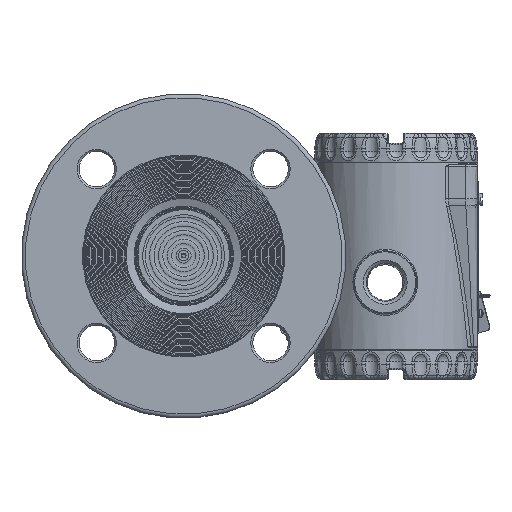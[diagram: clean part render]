
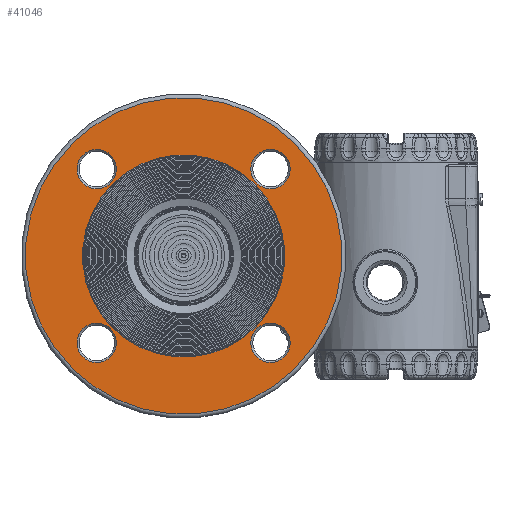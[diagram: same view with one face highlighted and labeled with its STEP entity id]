
A CAD part, top view. The second image highlights one B-rep face of the part: STEP entity #41046.
In plain terms, the highlighted planar face has unit normal (0, 0, 1).
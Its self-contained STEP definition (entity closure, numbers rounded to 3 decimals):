
#686=FACE_BOUND('',#6812,.T.);
#687=FACE_BOUND('',#6813,.T.);
#688=FACE_BOUND('',#6814,.T.);
#689=FACE_BOUND('',#6815,.T.);
#690=FACE_BOUND('',#6816,.T.);
#2670=PLANE('',#45621);
#4064=FACE_OUTER_BOUND('',#6811,.T.);
#6811=EDGE_LOOP('',(#31290));
#6812=EDGE_LOOP('',(#31291,#31292));
#6813=EDGE_LOOP('',(#31293));
#6814=EDGE_LOOP('',(#31294));
#6815=EDGE_LOOP('',(#31295));
#6816=EDGE_LOOP('',(#31296));
#13537=CIRCLE('',#45618,80.5);
#13539=CIRCLE('',#45622,51.4);
#13540=CIRCLE('',#45623,51.4);
#13541=CIRCLE('',#45624,10.);
#13542=CIRCLE('',#45625,10.);
#13543=CIRCLE('',#45626,10.);
#13544=CIRCLE('',#45627,10.);
#18014=VERTEX_POINT('',#72579);
#18016=VERTEX_POINT('',#72587);
#18017=VERTEX_POINT('',#72588);
#18018=VERTEX_POINT('',#72591);
#18019=VERTEX_POINT('',#72593);
#18020=VERTEX_POINT('',#72595);
#18021=VERTEX_POINT('',#72597);
#22735=EDGE_CURVE('',#18014,#18014,#13537,.T.);
#22738=EDGE_CURVE('',#18016,#18017,#13539,.T.);
#22739=EDGE_CURVE('',#18017,#18016,#13540,.T.);
#22740=EDGE_CURVE('',#18018,#18018,#13541,.T.);
#22741=EDGE_CURVE('',#18019,#18019,#13542,.T.);
#22742=EDGE_CURVE('',#18020,#18020,#13543,.T.);
#22743=EDGE_CURVE('',#18021,#18021,#13544,.T.);
#31290=ORIENTED_EDGE('',*,*,#22735,.F.);
#31291=ORIENTED_EDGE('',*,*,#22738,.F.);
#31292=ORIENTED_EDGE('',*,*,#22739,.F.);
#31293=ORIENTED_EDGE('',*,*,#22740,.F.);
#31294=ORIENTED_EDGE('',*,*,#22741,.F.);
#31295=ORIENTED_EDGE('',*,*,#22742,.F.);
#31296=ORIENTED_EDGE('',*,*,#22743,.F.);
#41046=ADVANCED_FACE('',(#4064,#686,#687,#688,#689,#690),#2670,.T.);
#45618=AXIS2_PLACEMENT_3D('',#72581,#53739,#53740);
#45621=AXIS2_PLACEMENT_3D('',#72586,#53746,#53747);
#45622=AXIS2_PLACEMENT_3D('',#72589,#53748,#53749);
#45623=AXIS2_PLACEMENT_3D('',#72590,#53750,#53751);
#45624=AXIS2_PLACEMENT_3D('',#72592,#53752,#53753);
#45625=AXIS2_PLACEMENT_3D('',#72594,#53754,#53755);
#45626=AXIS2_PLACEMENT_3D('',#72596,#53756,#53757);
#45627=AXIS2_PLACEMENT_3D('',#72598,#53758,#53759);
#53739=DIRECTION('center_axis',(0.,0.,-1.));
#53740=DIRECTION('ref_axis',(-1.,0.,0.));
#53746=DIRECTION('center_axis',(0.,0.,1.));
#53747=DIRECTION('ref_axis',(1.,0.,0.));
#53748=DIRECTION('center_axis',(0.,0.,1.));
#53749=DIRECTION('ref_axis',(-1.,0.,0.));
#53750=DIRECTION('center_axis',(0.,0.,1.));
#53751=DIRECTION('ref_axis',(-1.,0.,0.));
#53752=DIRECTION('center_axis',(0.,0.,1.));
#53753=DIRECTION('ref_axis',(-1.,0.,0.));
#53754=DIRECTION('center_axis',(0.,0.,1.));
#53755=DIRECTION('ref_axis',(0.,1.,0.));
#53756=DIRECTION('center_axis',(0.,0.,1.));
#53757=DIRECTION('ref_axis',(1.,0.,0.));
#53758=DIRECTION('center_axis',(0.,0.,1.));
#53759=DIRECTION('ref_axis',(0.,-1.,0.));
#72579=CARTESIAN_POINT('',(80.5,0.,17.));
#72581=CARTESIAN_POINT('Origin',(0.,0.,17.));
#72586=CARTESIAN_POINT('Origin',(0.,0.,
17.));
#72587=CARTESIAN_POINT('',(51.4,0.,17.));
#72588=CARTESIAN_POINT('',(-51.4,0.,17.));
#72589=CARTESIAN_POINT('Origin',(0.,0.,17.));
#72590=CARTESIAN_POINT('Origin',(0.,0.,17.));
#72591=CARTESIAN_POINT('',(10.,62.5,17.));
#72592=CARTESIAN_POINT('Origin',(0.,62.5,17.));
#72593=CARTESIAN_POINT('',(62.5,-10.,17.));
#72594=CARTESIAN_POINT('Origin',(62.5,0.,17.));
#72595=CARTESIAN_POINT('',(-10.,-62.5,17.));
#72596=CARTESIAN_POINT('Origin',(0.,-62.5,17.));
#72597=CARTESIAN_POINT('',(-62.5,10.,17.));
#72598=CARTESIAN_POINT('Origin',(-62.5,0.,17.));
